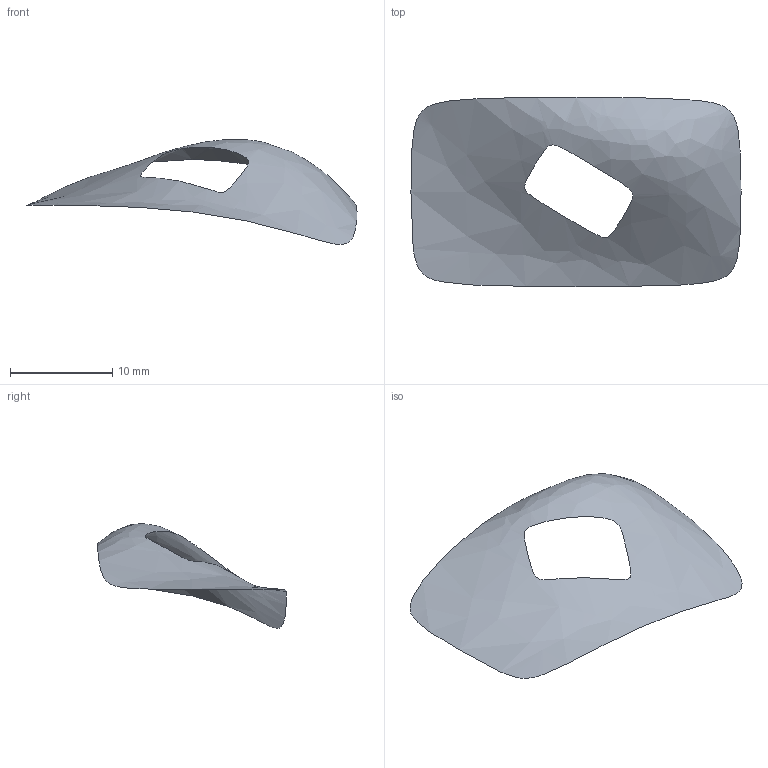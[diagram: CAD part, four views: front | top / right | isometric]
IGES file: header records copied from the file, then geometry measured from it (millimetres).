
Global section: file name: /Volumes/DATA/Jelle_prive/Jelle_dev/workspace/SVN/foam_pavilion/trimmed_test.igs; native system: Rhinoceros ( Mar 22 2009 ); preprocessor: Trout Lake IGES 012 Mar 22 2009; date: 090415.144519; units: millimetre
Bounding box: 32.31 x 18.5 x 10.25 mm (x, y, z)
Surface area: 589.9 mm2 (no closed solid volume)
Topology: 0 solids, 0 shells, 1 faces, 8 edges, 8 vertices
Faces by surface type: bspline 1
